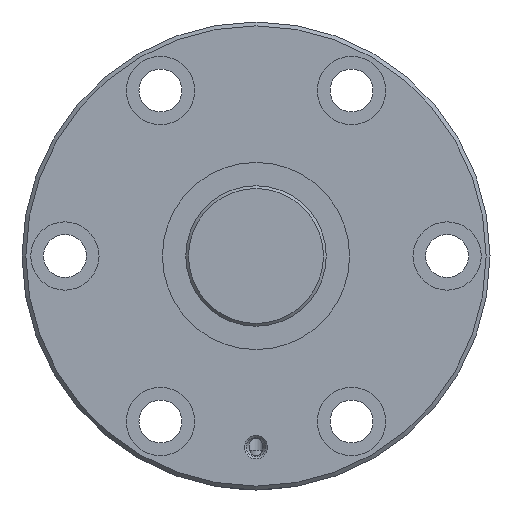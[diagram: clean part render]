
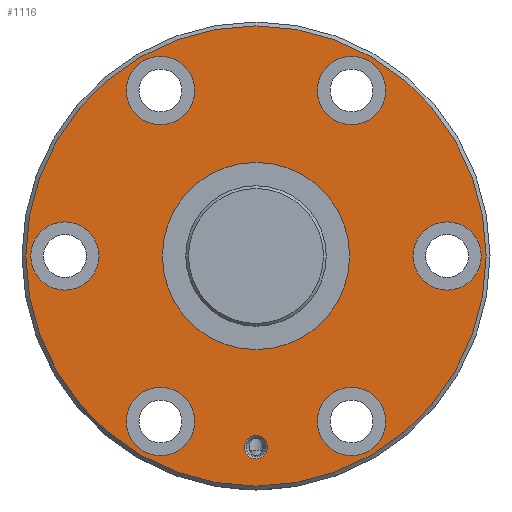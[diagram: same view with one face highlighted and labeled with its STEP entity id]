
A CAD part, left-side view. The second image highlights one B-rep face of the part: STEP entity #1116.
In plain terms, the highlighted planar face has unit normal (-1, 0, 0).
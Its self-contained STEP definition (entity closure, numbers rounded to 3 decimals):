
#193=ORIENTED_EDGE('',*,*,#434,.T.);
#194=ORIENTED_EDGE('',*,*,#435,.T.);
#195=ORIENTED_EDGE('',*,*,#436,.T.);
#196=ORIENTED_EDGE('',*,*,#437,.T.);
#197=ORIENTED_EDGE('',*,*,#438,.T.);
#198=ORIENTED_EDGE('',*,*,#439,.T.);
#199=ORIENTED_EDGE('',*,*,#440,.T.);
#200=ORIENTED_EDGE('',*,*,#441,.T.);
#201=ORIENTED_EDGE('',*,*,#433,.F.);
#433=EDGE_CURVE('',#555,#555,#656,.T.);
#434=EDGE_CURVE('',#556,#556,#657,.T.);
#435=EDGE_CURVE('',#557,#557,#658,.F.);
#436=EDGE_CURVE('',#558,#558,#659,.T.);
#437=EDGE_CURVE('',#559,#559,#660,.T.);
#438=EDGE_CURVE('',#560,#560,#661,.T.);
#439=EDGE_CURVE('',#561,#561,#662,.T.);
#440=EDGE_CURVE('',#562,#562,#663,.T.);
#441=EDGE_CURVE('',#563,#563,#664,.T.);
#555=VERTEX_POINT('',#1891);
#556=VERTEX_POINT('',#1894);
#557=VERTEX_POINT('',#1896);
#558=VERTEX_POINT('',#1898);
#559=VERTEX_POINT('',#1900);
#560=VERTEX_POINT('',#1902);
#561=VERTEX_POINT('',#1904);
#562=VERTEX_POINT('',#1906);
#563=VERTEX_POINT('',#1908);
#656=CIRCLE('',#1243,59.);
#657=CIRCLE('',#1245,24.);
#658=CIRCLE('',#1246,8.75);
#659=CIRCLE('',#1247,3.);
#660=CIRCLE('',#1248,8.75);
#661=CIRCLE('',#1249,8.75);
#662=CIRCLE('',#1250,8.75);
#663=CIRCLE('',#1251,8.75);
#664=CIRCLE('',#1252,8.75);
#750=EDGE_LOOP('',(#193));
#751=EDGE_LOOP('',(#194));
#752=EDGE_LOOP('',(#195));
#753=EDGE_LOOP('',(#196));
#754=EDGE_LOOP('',(#197));
#755=EDGE_LOOP('',(#198));
#756=EDGE_LOOP('',(#199));
#757=EDGE_LOOP('',(#200));
#758=EDGE_LOOP('',(#201));
#924=FACE_BOUND('',#750,.T.);
#925=FACE_BOUND('',#751,.T.);
#926=FACE_BOUND('',#752,.T.);
#927=FACE_BOUND('',#753,.T.);
#928=FACE_BOUND('',#754,.T.);
#929=FACE_BOUND('',#755,.T.);
#930=FACE_BOUND('',#756,.T.);
#931=FACE_BOUND('',#757,.T.);
#932=FACE_BOUND('',#758,.T.);
#1076=PLANE('',#1244);
#1116=ADVANCED_FACE('',(#924,#925,#926,#927,#928,#929,#930,#931,#932),#1076,
 .T.);
#1243=AXIS2_PLACEMENT_3D('',#1890,#1456,#1457);
#1244=AXIS2_PLACEMENT_3D('',#1892,#1458,#1459);
#1245=AXIS2_PLACEMENT_3D('',#1893,#1460,#1461);
#1246=AXIS2_PLACEMENT_3D('',#1895,#1462,#1463);
#1247=AXIS2_PLACEMENT_3D('',#1897,#1464,#1465);
#1248=AXIS2_PLACEMENT_3D('',#1899,#1466,#1467);
#1249=AXIS2_PLACEMENT_3D('',#1901,#1468,#1469);
#1250=AXIS2_PLACEMENT_3D('',#1903,#1470,#1471);
#1251=AXIS2_PLACEMENT_3D('',#1905,#1472,#1473);
#1252=AXIS2_PLACEMENT_3D('',#1907,#1474,#1475);
#1456=DIRECTION('',(1.,0.,0.));
#1457=DIRECTION('',(0.,0.,-1.));
#1458=DIRECTION('',(-1.,0.,0.));
#1459=DIRECTION('',(0.,0.,1.));
#1460=DIRECTION('',(1.,0.,0.));
#1461=DIRECTION('',(0.,0.,-1.));
#1462=DIRECTION('',(-1.,0.,0.));
#1463=DIRECTION('',(0.,0.,1.));
#1464=DIRECTION('',(1.,0.,0.));
#1465=DIRECTION('',(0.,0.,-1.));
#1466=DIRECTION('',(1.,0.,0.));
#1467=DIRECTION('',(0.,0.,-1.));
#1468=DIRECTION('',(1.,0.,0.));
#1469=DIRECTION('',(0.,0.,-1.));
#1470=DIRECTION('',(1.,0.,0.));
#1471=DIRECTION('',(0.,0.,-1.));
#1472=DIRECTION('',(1.,0.,0.));
#1473=DIRECTION('',(0.,0.,-1.));
#1474=DIRECTION('',(1.,0.,0.));
#1475=DIRECTION('',(0.,0.,-1.));
#1890=CARTESIAN_POINT('',(0.,0.,0.));
#1891=CARTESIAN_POINT('',(0.,0.,-59.));
#1892=CARTESIAN_POINT('',(0.,59.,0.));
#1893=CARTESIAN_POINT('',(0.,0.,0.));
#1894=CARTESIAN_POINT('',(0.,0.,-24.));
#1895=CARTESIAN_POINT('',(0.,49.,0.));
#1896=CARTESIAN_POINT('',(0.,49.,8.75));
#1897=CARTESIAN_POINT('',(0.,0.,-49.));
#1898=CARTESIAN_POINT('',(0.,0.,-52.));
#1899=CARTESIAN_POINT('',(0.,-49.,0.));
#1900=CARTESIAN_POINT('',(0.,-49.,-8.75));
#1901=CARTESIAN_POINT('',(0.,24.5,42.435));
#1902=CARTESIAN_POINT('',(0.,24.5,33.685));
#1903=CARTESIAN_POINT('',(0.,-24.5,-42.435));
#1904=CARTESIAN_POINT('',(0.,-24.5,-51.185));
#1905=CARTESIAN_POINT('',(0.,-24.5,42.435));
#1906=CARTESIAN_POINT('',(0.,-24.5,33.685));
#1907=CARTESIAN_POINT('',(0.,24.5,-42.435));
#1908=CARTESIAN_POINT('',(0.,24.5,-51.185));
